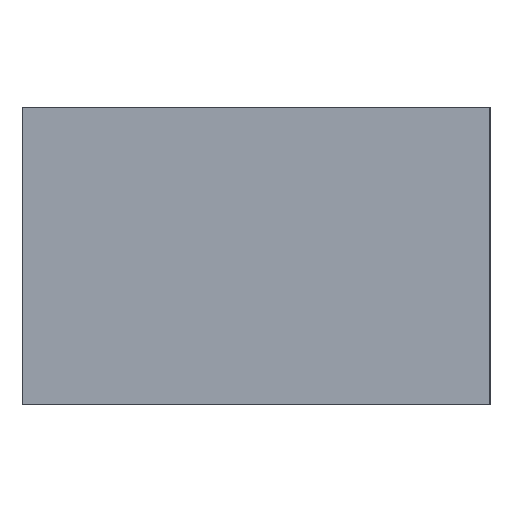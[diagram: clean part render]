
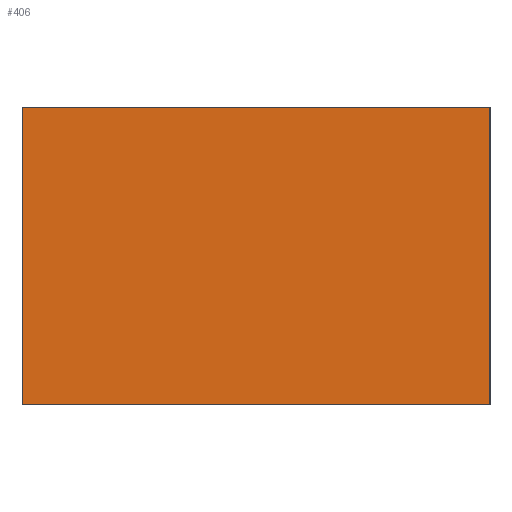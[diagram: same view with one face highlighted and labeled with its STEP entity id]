
A CAD part, left-side view. The second image highlights one B-rep face of the part: STEP entity #406.
In plain terms, the highlighted planar face has unit normal (-1, 0, 0).
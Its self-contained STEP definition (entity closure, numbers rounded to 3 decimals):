
#406 = ADVANCED_FACE('',(#407),#421,.F.);
#407 = FACE_BOUND('',#408,.F.);
#408 = EDGE_LOOP('',(#409,#444,#472,#500));
#409 = ORIENTED_EDGE('',*,*,#410,.F.);
#410 = EDGE_CURVE('',#411,#413,#415,.T.);
#411 = VERTEX_POINT('',#412);
#412 = CARTESIAN_POINT('',(0.,0.,0.));
#413 = VERTEX_POINT('',#414);
#414 = CARTESIAN_POINT('',(0.,0.,0.35));
#415 = SURFACE_CURVE('',#416,(#420,#432),.PCURVE_S1.);
#416 = LINE('',#417,#418);
#417 = CARTESIAN_POINT('',(0.,0.,0.));
#418 = VECTOR('',#419,1.);
#419 = DIRECTION('',(0.,0.,1.));
#420 = PCURVE('',#421,#426);
#421 = PLANE('',#422);
#422 = AXIS2_PLACEMENT_3D('',#423,#424,#425);
#423 = CARTESIAN_POINT('',(0.,0.,0.));
#424 = DIRECTION('',(1.,0.,0.));
#425 = DIRECTION('',(0.,0.,1.));
#426 = DEFINITIONAL_REPRESENTATION('',(#427),#431);
#427 = LINE('',#428,#429);
#428 = CARTESIAN_POINT('',(0.,0.));
#429 = VECTOR('',#430,1.);
#430 = DIRECTION('',(1.,0.));
#431 = ( GEOMETRIC_REPRESENTATION_CONTEXT(2) 
PARAMETRIC_REPRESENTATION_CONTEXT() REPRESENTATION_CONTEXT('2D SPACE',''
  ) );
#432 = PCURVE('',#433,#438);
#433 = PLANE('',#434);
#434 = AXIS2_PLACEMENT_3D('',#435,#436,#437);
#435 = CARTESIAN_POINT('',(0.,0.,0.));
#436 = DIRECTION('',(0.,1.,0.));
#437 = DIRECTION('',(0.,0.,1.));
#438 = DEFINITIONAL_REPRESENTATION('',(#439),#443);
#439 = LINE('',#440,#441);
#440 = CARTESIAN_POINT('',(0.,0.));
#441 = VECTOR('',#442,1.);
#442 = DIRECTION('',(1.,0.));
#443 = ( GEOMETRIC_REPRESENTATION_CONTEXT(2) 
PARAMETRIC_REPRESENTATION_CONTEXT() REPRESENTATION_CONTEXT('2D SPACE',''
  ) );
#444 = ORIENTED_EDGE('',*,*,#445,.T.);
#445 = EDGE_CURVE('',#411,#446,#448,.T.);
#446 = VERTEX_POINT('',#447);
#447 = CARTESIAN_POINT('',(0.,0.55,0.));
#448 = SURFACE_CURVE('',#449,(#453,#460),.PCURVE_S1.);
#449 = LINE('',#450,#451);
#450 = CARTESIAN_POINT('',(0.,0.,0.));
#451 = VECTOR('',#452,1.);
#452 = DIRECTION('',(0.,1.,0.));
#453 = PCURVE('',#421,#454);
#454 = DEFINITIONAL_REPRESENTATION('',(#455),#459);
#455 = LINE('',#456,#457);
#456 = CARTESIAN_POINT('',(0.,0.));
#457 = VECTOR('',#458,1.);
#458 = DIRECTION('',(0.,-1.));
#459 = ( GEOMETRIC_REPRESENTATION_CONTEXT(2) 
PARAMETRIC_REPRESENTATION_CONTEXT() REPRESENTATION_CONTEXT('2D SPACE',''
  ) );
#460 = PCURVE('',#461,#466);
#461 = PLANE('',#462);
#462 = AXIS2_PLACEMENT_3D('',#463,#464,#465);
#463 = CARTESIAN_POINT('',(0.,0.,0.));
#464 = DIRECTION('',(0.,0.,1.));
#465 = DIRECTION('',(1.,0.,0.));
#466 = DEFINITIONAL_REPRESENTATION('',(#467),#471);
#467 = LINE('',#468,#469);
#468 = CARTESIAN_POINT('',(0.,0.));
#469 = VECTOR('',#470,1.);
#470 = DIRECTION('',(0.,1.));
#471 = ( GEOMETRIC_REPRESENTATION_CONTEXT(2) 
PARAMETRIC_REPRESENTATION_CONTEXT() REPRESENTATION_CONTEXT('2D SPACE',''
  ) );
#472 = ORIENTED_EDGE('',*,*,#473,.T.);
#473 = EDGE_CURVE('',#446,#474,#476,.T.);
#474 = VERTEX_POINT('',#475);
#475 = CARTESIAN_POINT('',(0.,0.55,0.35));
#476 = SURFACE_CURVE('',#477,(#481,#488),.PCURVE_S1.);
#477 = LINE('',#478,#479);
#478 = CARTESIAN_POINT('',(0.,0.55,0.));
#479 = VECTOR('',#480,1.);
#480 = DIRECTION('',(0.,0.,1.));
#481 = PCURVE('',#421,#482);
#482 = DEFINITIONAL_REPRESENTATION('',(#483),#487);
#483 = LINE('',#484,#485);
#484 = CARTESIAN_POINT('',(0.,-0.55));
#485 = VECTOR('',#486,1.);
#486 = DIRECTION('',(1.,0.));
#487 = ( GEOMETRIC_REPRESENTATION_CONTEXT(2) 
PARAMETRIC_REPRESENTATION_CONTEXT() REPRESENTATION_CONTEXT('2D SPACE',''
  ) );
#488 = PCURVE('',#489,#494);
#489 = PLANE('',#490);
#490 = AXIS2_PLACEMENT_3D('',#491,#492,#493);
#491 = CARTESIAN_POINT('',(0.,0.55,0.));
#492 = DIRECTION('',(0.,1.,0.));
#493 = DIRECTION('',(0.,0.,1.));
#494 = DEFINITIONAL_REPRESENTATION('',(#495),#499);
#495 = LINE('',#496,#497);
#496 = CARTESIAN_POINT('',(0.,0.));
#497 = VECTOR('',#498,1.);
#498 = DIRECTION('',(1.,0.));
#499 = ( GEOMETRIC_REPRESENTATION_CONTEXT(2) 
PARAMETRIC_REPRESENTATION_CONTEXT() REPRESENTATION_CONTEXT('2D SPACE',''
  ) );
#500 = ORIENTED_EDGE('',*,*,#501,.F.);
#501 = EDGE_CURVE('',#413,#474,#502,.T.);
#502 = SURFACE_CURVE('',#503,(#507,#514),.PCURVE_S1.);
#503 = LINE('',#504,#505);
#504 = CARTESIAN_POINT('',(0.,0.,0.35));
#505 = VECTOR('',#506,1.);
#506 = DIRECTION('',(0.,1.,0.));
#507 = PCURVE('',#421,#508);
#508 = DEFINITIONAL_REPRESENTATION('',(#509),#513);
#509 = LINE('',#510,#511);
#510 = CARTESIAN_POINT('',(0.35,0.));
#511 = VECTOR('',#512,1.);
#512 = DIRECTION('',(0.,-1.));
#513 = ( GEOMETRIC_REPRESENTATION_CONTEXT(2) 
PARAMETRIC_REPRESENTATION_CONTEXT() REPRESENTATION_CONTEXT('2D SPACE',''
  ) );
#514 = PCURVE('',#515,#520);
#515 = PLANE('',#516);
#516 = AXIS2_PLACEMENT_3D('',#517,#518,#519);
#517 = CARTESIAN_POINT('',(0.,0.,0.35));
#518 = DIRECTION('',(0.,0.,1.));
#519 = DIRECTION('',(1.,0.,0.));
#520 = DEFINITIONAL_REPRESENTATION('',(#521),#525);
#521 = LINE('',#522,#523);
#522 = CARTESIAN_POINT('',(0.,0.));
#523 = VECTOR('',#524,1.);
#524 = DIRECTION('',(0.,1.));
#525 = ( GEOMETRIC_REPRESENTATION_CONTEXT(2) 
PARAMETRIC_REPRESENTATION_CONTEXT() REPRESENTATION_CONTEXT('2D SPACE',''
  ) );
